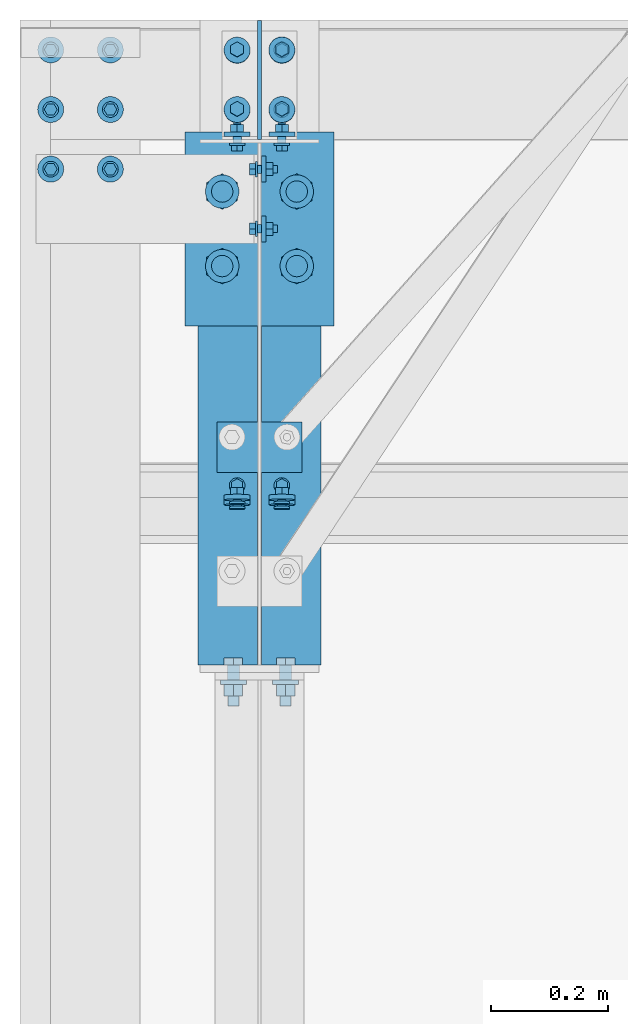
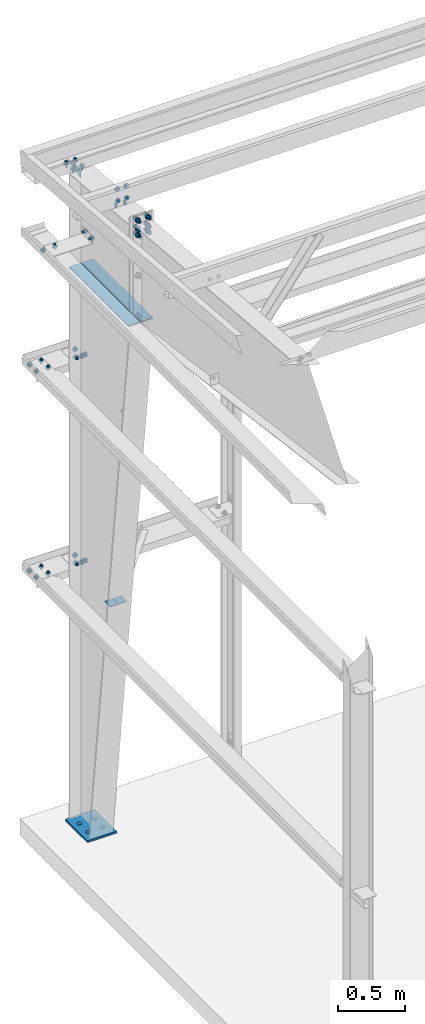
# One storey, part 86 of 185: 15 mechanical fasteners, 6 discrete accessories, 8 elements without a shape of their own.
"""IFC2X3 building model written with IfcOpenShell, lengths in millimetres."""

from ifc_helpers import new_model, si_unit, frame, origin_with_axes, origin_2d_with_axis, place, context, subcontext, project, spatial, polyline, rectangle, circle, outline, extrude, source, transform, mapped, material, type_object, element, aggregate, save


model = new_model("IFC2X3")

# Units and contexts
model_context = context("Model", 3, precision=1e-05, world=origin_with_axes())
body_context = subcontext(model_context, "Body", "Model", "MODEL_VIEW")
ifc_project = project(units=[si_unit("LENGTHUNIT", "METRE", prefix="MILLI"), si_unit("AREAUNIT", "SQUARE_METRE"), si_unit("VOLUMEUNIT", "CUBIC_METRE"), si_unit("MASSUNIT", "GRAM", prefix="KILO"), si_unit("TIMEUNIT", "SECOND"), si_unit("PLANEANGLEUNIT", "RADIAN"), si_unit("SOLIDANGLEUNIT", "STERADIAN"), si_unit("THERMODYNAMICTEMPERATUREUNIT", "DEGREE_CELSIUS"), si_unit("LUMINOUSINTENSITYUNIT", "LUMEN")], contexts=[model_context])

# Site, building, storey
site_placement = place(None, origin_with_axes())
site = spatial("IfcSite", under=ifc_project, at=site_placement, Name="Undefined", CompositionType="ELEMENT")
building_placement = place(site_placement, origin_with_axes())
building = spatial("IfcBuilding", under=site, at=building_placement, Name="Undefined", CompositionType="ELEMENT")
storey_placement = place(building_placement, origin_with_axes())
storey = spatial("IfcBuildingStorey", under=building, at=storey_placement, Name="Undefined", CompositionType="ELEMENT", Elevation=0.0)

# Assembly, mechanical fastener
assembly_1_placement = place(storey_placement, origin_with_axes())
assembly_1 = element("IfcElementAssembly", 1, at=assembly_1_placement, inside=storey, Name="Steel Assembly", AssemblyPlace="NOTDEFINED", PredefinedType="RIGID_FRAME")
ifc_material_1 = material(Name="Undefined")
discrete_accessory_type_1 = type_object("IfcDiscreteAccessoryType", Name="Bolt assembly")
shared_shape_1 = source(origin_with_axes(), body_context, "Body", "SweptSolid", [
    extrude(circle(Radius=7.14374971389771, at=origin_2d_with_axis()), frame((0.0, -1.4900000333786, 0.0), z_axis=(0.0, 1.0, 0.0), x_axis=(1.0, 0.0, 0.0)), (0.0, 0.0, 1.0), 3.2),
    extrude(circle(Radius=7.14374971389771, at=origin_2d_with_axis()), frame((0.0, -1.4900000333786, 0.0), z_axis=(0.0, 1.0, 0.0), x_axis=(1.0, 0.0, 0.0)), (0.0, 0.0, 1.0), 3.2),
    extrude(outline(polyline([(10.9985221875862, 0.0), (5.4992610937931, 9.52499961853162), (-5.4992610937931, 9.52499961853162), (-10.9985221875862, 0.0), (-5.4992610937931, -9.52499961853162), (5.4992610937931, -9.52499961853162), (10.9985221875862, 0.0)])), frame((0.0, -15.0837496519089, 0.0), z_axis=(0.0, 1.0, 0.0), x_axis=(1.0, 0.0, 0.0)), (0.0, 0.0, 1.0), 9.5),
    extrude(circle(Radius=6.34999990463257, at=origin_2d_with_axis()), frame((0.0, -5.5587500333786, 0.0), z_axis=(0.0, 1.0, 0.0), x_axis=(1.0, 0.0, 0.0)), (0.0, 0.0, 1.0), 38.1),
    extrude(circle(Radius=13.4937496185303, at=origin_2d_with_axis()), frame((0.0, -5.5587500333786, 0.0), z_axis=(0.0, 1.0, 0.0), x_axis=(1.0, 0.0, 0.0)), (0.0, 0.0, 1.0), 4.0),
    extrude(circle(Radius=22.2250003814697, at=origin_2d_with_axis()), frame((0.0, 1.5900000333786, 0.0), z_axis=(0.0, 1.0, 0.0), x_axis=(1.0, 0.0, 0.0)), (0.0, 0.0, 1.0), 7.9),
    extrude(outline(polyline([(12.8316099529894, 0.0), (6.4158049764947, 11.1125001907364), (-6.4158049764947, 11.1125001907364), (-12.8316099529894, 0.0), (-6.4158049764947, -11.1125001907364), (6.4158049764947, -11.1125001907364), (12.8316099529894, 0.0)])), frame((0.0, 9.5275000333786, 0.0), z_axis=(0.0, 1.0, 0.0), x_axis=(1.0, 0.0, 0.0)), (0.0, 0.0, 1.0), 12.3),
])
mechanical_fastener_1_placement = place(assembly_1_placement, frame((152.4, 31902.4, 4165.6), z_axis=(0.0, -1.0, 0.0), x_axis=(-1.0, 0.0, 0.0)))
mechanical_fastener_1 = element("IfcMechanicalFastener", 2, at=mechanical_fastener_1_placement, type_object=discrete_accessory_type_1, material=ifc_material_1, Name="Bolt assembly", NominalDiameter=12.6999998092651, NominalLength=38.0999984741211, context=body_context, shape_type="MappedRepresentation", body=[
    mapped(shared_shape_1, transform((0.0, 0.0, -50.7999992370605))),
    mapped(shared_shape_1, transform((101.599998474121, 0.0, -50.7999992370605))),
    mapped(shared_shape_1, transform((0.0, 0.0, 50.7999992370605))),
    mapped(shared_shape_1, transform((101.599998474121, 0.0, 50.7999992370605))),
])
aggregate(assembly_1, [mechanical_fastener_1])

assembly_2_placement = place(storey_placement, origin_with_axes())
assembly_2 = element("IfcElementAssembly", 3, at=assembly_2_placement, inside=storey, Name="Steel Assembly", AssemblyPlace="NOTDEFINED", PredefinedType="RIGID_FRAME")
shared_shape_2 = source(origin_with_axes(), body_context, "Body", "SweptSolid", [
    extrude(circle(Radius=7.14374971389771, at=origin_2d_with_axis()), frame((0.0, -1.4900000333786, 0.0), z_axis=(0.0, 1.0, 0.0), x_axis=(1.0, 0.0, 0.0)), (0.0, 0.0, 1.0), 3.2),
    extrude(circle(Radius=7.14374971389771, at=origin_2d_with_axis()), frame((0.0, -1.69000003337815, 0.0), z_axis=(0.0, 1.0, 0.0), x_axis=(1.0, 0.0, 0.0)), (0.0, 0.0, 1.0), 3.3),
    extrude(outline(polyline([(10.9985221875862, 0.0), (5.4992610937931, 9.52499961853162), (-5.4992610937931, 9.52499961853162), (-10.9985221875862, 0.0), (-5.4992610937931, -9.52499961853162), (5.4992610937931, -9.52499961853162), (10.9985221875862, 0.0)])), frame((0.0, -15.0837496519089, 0.0), z_axis=(0.0, 1.0, 0.0), x_axis=(1.0, 0.0, 0.0)), (0.0, 0.0, 1.0), 9.5),
    extrude(circle(Radius=6.34999990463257, at=origin_2d_with_axis()), frame((0.0, -5.5587500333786, 0.0), z_axis=(0.0, 1.0, 0.0), x_axis=(1.0, 0.0, 0.0)), (0.0, 0.0, 1.0), 38.1),
    extrude(circle(Radius=13.4937496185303, at=origin_2d_with_axis()), frame((0.0, -5.5587500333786, 0.0), z_axis=(0.0, 1.0, 0.0), x_axis=(1.0, 0.0, 0.0)), (0.0, 0.0, 1.0), 4.0),
    extrude(circle(Radius=22.2250003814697, at=origin_2d_with_axis()), frame((0.0, 1.5900000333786, 0.0), z_axis=(0.0, 1.0, 0.0), x_axis=(1.0, 0.0, 0.0)), (0.0, 0.0, 1.0), 7.9),
    extrude(outline(polyline([(12.8316099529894, 0.0), (6.4158049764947, 11.1125001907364), (-6.4158049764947, 11.1125001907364), (-12.8316099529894, 0.0), (-6.4158049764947, -11.1125001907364), (6.4158049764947, -11.1125001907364), (12.8316099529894, 0.0)])), frame((0.0, 9.5275000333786, 0.0), z_axis=(0.0, 1.0, 0.0), x_axis=(1.0, 0.0, 0.0)), (0.0, 0.0, 1.0), 12.3),
])
mechanical_fastener_2_placement = place(assembly_2_placement, frame((152.4, 31902.4, 2286.0), z_axis=(0.0, -1.0, 0.0), x_axis=(-1.0, 0.0, 0.0)))
mechanical_fastener_2 = element("IfcMechanicalFastener", 4, at=mechanical_fastener_2_placement, type_object=discrete_accessory_type_1, material=ifc_material_1, Name="Bolt assembly", NominalDiameter=12.6999998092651, NominalLength=38.0999984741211, context=body_context, shape_type="MappedRepresentation", body=[
    mapped(shared_shape_2, transform((0.0, 0.0, -50.7999992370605))),
    mapped(shared_shape_2, transform((101.599998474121, 0.0, -50.7999992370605))),
    mapped(shared_shape_2, transform((0.0, 0.0, 50.7999992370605))),
    mapped(shared_shape_2, transform((101.599998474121, 0.0, 50.7999992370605))),
])
aggregate(assembly_2, [mechanical_fastener_2])

# Assembly, discrete accessories
assembly_3_placement = place(storey_placement, origin_with_axes())
assembly_3 = element("IfcElementAssembly", 5, at=assembly_3_placement, inside=storey, Name="Steel Assembly", AssemblyPlace="NOTDEFINED", PredefinedType="RIGID_FRAME")
ifc_material_2 = material(Name="STEEL/55")
discrete_accessory_type_2 = type_object("IfcDiscreteAccessoryType", Name="Stiff")
discrete_accessory_1_placement = place(assembly_3_placement, frame((352.424999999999, 31794.45, 5055.93231443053), z_axis=(1.0, 0.0, 0.0), x_axis=(0.0, -1.0, 0.0)))
discrete_accessory_1 = element("IfcDiscreteAccessory", 6, at=discrete_accessory_1_placement, type_object=discrete_accessory_type_2, material=ifc_material_2, Name="Stiff", ObjectType="FL3/8\"X4\"", context=body_context, shape_type="SweptSolid", body=[
    extrude(rectangle(XDim=9.525, YDim=101.6, at=origin_2d_with_axis()), frame((889.0, 0.0, 0.0), z_axis=(-1.0, 0.0, 0.0), x_axis=(0.0, -1.0, 0.0)), (0.0, 0.0, 1.0), 889.0),
])
discrete_accessory_2_placement = place(assembly_3_placement, frame((460.375, 31794.45, 5055.93231443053), z_axis=(1.0, 0.0, 0.0), x_axis=(0.0, -1.0, 0.0)))
discrete_accessory_2 = element("IfcDiscreteAccessory", 7, at=discrete_accessory_2_placement, type_object=discrete_accessory_type_2, material=ifc_material_2, Name="Stiff", ObjectType="FL3/8\"X4\"", context=body_context, shape_type="SweptSolid", body=[
    extrude(rectangle(XDim=9.525, YDim=101.6, at=origin_2d_with_axis()), frame((889.0, 0.0, 0.0), z_axis=(-1.0, 0.0, 0.0), x_axis=(0.0, -1.0, 0.0)), (0.0, 0.0, 1.0), 889.0),
])

# Assembly, mechanical fasteners
assembly_4_placement = place(storey_placement, origin_with_axes())
assembly_4 = element("IfcElementAssembly", 8, at=assembly_4_placement, inside=storey, Name="Steel Assembly", AssemblyPlace="NOTDEFINED", PredefinedType="RIGID_FRAME")
shared_shape_3 = source(origin_with_axes(), body_context, "Body", "SweptSolid", [
    extrude(circle(Radius=7.14374971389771, at=origin_2d_with_axis()), frame((0.0, -1.59000001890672, 0.0), z_axis=(0.0, 1.0, 0.0), x_axis=(1.0, 0.0, 0.0)), (0.0, 0.0, 1.0), 3.3),
    extrude(circle(Radius=13.4937496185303, at=origin_2d_with_axis()), frame((0.0, -5.5587500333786, 0.0), z_axis=(0.0, 1.0, 0.0), x_axis=(1.0, 0.0, 0.0)), (0.0, 0.0, 1.0), 4.0),
    extrude(circle(Radius=22.2250003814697, at=origin_2d_with_axis()), frame((0.0, 1.5900000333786, 0.0), z_axis=(0.0, 1.0, 0.0), x_axis=(1.0, 0.0, 0.0)), (0.0, 0.0, 1.0), 7.9),
    extrude(outline(polyline([(12.8316099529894, 0.0), (6.4158049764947, 11.1125001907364), (-6.4158049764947, 11.1125001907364), (-12.8316099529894, 0.0), (-6.4158049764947, -11.1125001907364), (6.4158049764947, -11.1125001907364), (12.8316099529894, 0.0)])), frame((0.0, 9.5275000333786, 0.0), z_axis=(0.0, 1.0, 0.0), x_axis=(1.0, 0.0, 0.0)), (0.0, 0.0, 1.0), 12.3),
])
mechanical_fastener_3_placement = place(assembly_4_placement, frame((444.5, 31185.1382206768, 6113.2623980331), z_axis=(1.0, 0.0, 0.0), x_axis=(0.0, -0.0830454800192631, -0.996545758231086)))
mechanical_fastener_3 = element("IfcMechanicalFastener", 9, at=mechanical_fastener_3_placement, type_object=discrete_accessory_type_1, material=ifc_material_1, Name="Bolt assembly", NominalDiameter=12.6999998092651, NominalLength=38.0999984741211, context=body_context, shape_type="MappedRepresentation", body=[
    mapped(shared_shape_3, transform((0.0, 0.0, 0.0))),
    mapped(shared_shape_3, transform((101.599998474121, 0.0, 0.0))),
])
mechanical_fastener_4_placement = place(assembly_4_placement, frame((368.3, 31185.1382206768, 6113.2623980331), z_axis=(1.0, 0.0, 0.0), x_axis=(0.0, -0.0830454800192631, -0.996545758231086)))
mechanical_fastener_4 = element("IfcMechanicalFastener", 10, at=mechanical_fastener_4_placement, type_object=discrete_accessory_type_1, material=ifc_material_1, Name="Bolt assembly", NominalDiameter=12.6999998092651, NominalLength=38.0999984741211, context=body_context, shape_type="MappedRepresentation", body=[
    mapped(shared_shape_3, transform((0.0, 0.0, 0.0))),
    mapped(shared_shape_3, transform((101.599998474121, 0.0, 0.0))),
])

# Discrete accessory
discrete_accessory_type_3 = type_object("IfcDiscreteAccessoryType", Name="Base Plate")
discrete_accessory_3_placement = place(assembly_3_placement, frame((406.4, 31813.4999998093, 7.93749999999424), z_axis=(-1.0, 0.0, 0.0), x_axis=(0.0, -1.0, 0.0)))
discrete_accessory_3 = element("IfcDiscreteAccessory", 11, at=discrete_accessory_3_placement, type_object=discrete_accessory_type_3, material=ifc_material_2, Name="Base Plate", ObjectType="FL5/8\"X10\"", context=body_context, shape_type="SweptSolid", body=[
    extrude(rectangle(XDim=15.875, YDim=254.0, at=origin_2d_with_axis()), frame((330.256867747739, 0.0, 0.0), z_axis=(-1.0, 0.0, 0.0), x_axis=(0.0, -1.0, 0.0)), (0.0, 0.0, 1.0), 330.3),
])

discrete_accessory_type_4 = type_object("IfcDiscreteAccessoryType", Name="FLANGE BRACE FLIP")
discrete_accessory_4_placement = place(assembly_3_placement, frame((404.01875, 31276.0950559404, 2284.29185), z_axis=(0.0, -1.0, 0.0), x_axis=(-1.0, 0.0, 0.0)))
discrete_accessory_4 = element("IfcDiscreteAccessory", 12, at=discrete_accessory_4_placement, type_object=discrete_accessory_type_4, material=ifc_material_2, Name="FLANGE BRACE FLIP", ObjectType="PL1/8\"X2 3/4\"", context=body_context, shape_type="SweptSolid", body=[
    extrude(rectangle(XDim=3.4163, YDim=85.725, at=origin_2d_with_axis()), frame((69.8499999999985, 0.0, 0.0), z_axis=(-1.0, 0.0, 0.0), x_axis=(0.0, -1.0, 0.0)), (0.0, 0.0, 1.0), 69.8),
])

discrete_accessory_5_placement = place(assembly_3_placement, frame((408.78125, 31276.0950559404, 2284.29185), z_axis=(0.0, -1.0, 0.0), x_axis=(1.0, 0.0, 0.0)))
discrete_accessory_5 = element("IfcDiscreteAccessory", 13, at=discrete_accessory_5_placement, type_object=discrete_accessory_type_4, material=ifc_material_2, Name="FLANGE BRACE FLIP", ObjectType="PL1/8\"X2 3/4\"", context=body_context, shape_type="SweptSolid", body=[
    extrude(rectangle(XDim=3.4163, YDim=85.725, at=origin_2d_with_axis()), frame((69.8499999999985, 0.0, 0.0), z_axis=(-1.0, 0.0, 0.0), x_axis=(0.0, -1.0, 0.0)), (0.0, 0.0, 1.0), 69.8),
])

# Assembly, mechanical fastener
assembly_5_placement = place(storey_placement, origin_with_axes())
assembly_5 = element("IfcElementAssembly", 14, at=assembly_5_placement, inside=storey, Name="Steel Assembly", AssemblyPlace="NOTDEFINED", PredefinedType="RIGID_FRAME")
shared_shape_4 = source(origin_with_axes(), body_context, "Body", "SweptSolid", [
    extrude(circle(Radius=7.14374971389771, at=origin_2d_with_axis()), frame((0.0, -1.69000003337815, 0.0), z_axis=(0.0, 1.0, 0.0), x_axis=(1.0, 0.0, 0.0)), (0.0, 0.0, 1.0), 3.3),
    extrude(circle(Radius=7.14374971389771, at=origin_2d_with_axis()), frame((0.0, -4.66250000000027, 0.0), z_axis=(0.0, 1.0, 0.0), x_axis=(1.0, 0.0, 0.0)), (0.0, 0.0, 1.0), 4.8),
    extrude(outline(polyline([(10.9985221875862, 0.0), (5.4992610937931, 9.52499961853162), (-5.4992610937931, 9.52499961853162), (-10.9985221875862, 0.0), (-5.4992610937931, -9.52499961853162), (5.4992610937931, -9.52499961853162), (10.9985221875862, 0.0)])), frame((0.0, -18.2562496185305, 0.0), z_axis=(0.0, 1.0, 0.0), x_axis=(1.0, 0.0, 0.0)), (0.0, 0.0, 1.0), 9.5),
    extrude(circle(Radius=6.34999990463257, at=origin_2d_with_axis()), frame((0.0, -8.73125000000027, 0.0), z_axis=(0.0, 1.0, 0.0), x_axis=(1.0, 0.0, 0.0)), (0.0, 0.0, 1.0), 38.1),
    extrude(circle(Radius=13.4937496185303, at=origin_2d_with_axis()), frame((0.0, -8.73125000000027, 0.0), z_axis=(0.0, 1.0, 0.0), x_axis=(1.0, 0.0, 0.0)), (0.0, 0.0, 1.0), 4.0),
    extrude(circle(Radius=22.2250003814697, at=origin_2d_with_axis()), frame((0.0, 1.5900000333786, 0.0), z_axis=(0.0, 1.0, 0.0), x_axis=(1.0, 0.0, 0.0)), (0.0, 0.0, 1.0), 7.9),
    extrude(outline(polyline([(12.8316099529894, 0.0), (6.4158049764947, 11.1125001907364), (-6.4158049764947, 11.1125001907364), (-12.8316099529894, 0.0), (-6.4158049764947, -11.1125001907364), (6.4158049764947, -11.1125001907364), (12.8316099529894, 0.0)])), frame((0.0, 9.5275000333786, 0.0), z_axis=(0.0, 1.0, 0.0), x_axis=(1.0, 0.0, 0.0)), (0.0, 0.0, 1.0), 12.3),
])
mechanical_fastener_5_placement = place(assembly_5_placement, frame((444.5, 31851.6, 2286.0), z_axis=(-1.0, 0.0, 0.0), x_axis=(0.0, 1.0, 0.0)))
mechanical_fastener_5 = element("IfcMechanicalFastener", 15, at=mechanical_fastener_5_placement, type_object=discrete_accessory_type_1, material=ifc_material_1, Name="Bolt assembly", NominalDiameter=12.6999998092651, NominalLength=38.0999984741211, context=body_context, shape_type="MappedRepresentation", body=[
    mapped(shared_shape_4, transform((0.0, 0.0, 0.0))),
    mapped(shared_shape_4, transform((101.599998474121, 0.0, 0.0))),
])

assembly_6_placement = place(storey_placement, origin_with_axes())
assembly_6 = element("IfcElementAssembly", 16, at=assembly_6_placement, inside=storey, Name="Steel Assembly", AssemblyPlace="NOTDEFINED", PredefinedType="RIGID_FRAME")
mechanical_fastener_6_placement = place(assembly_6_placement, frame((444.5, 31851.6, 4165.6), z_axis=(-1.0, 0.0, 0.0), x_axis=(0.0, 1.0, 0.0)))
mechanical_fastener_6 = element("IfcMechanicalFastener", 17, at=mechanical_fastener_6_placement, type_object=discrete_accessory_type_1, material=ifc_material_1, Name="Bolt assembly", NominalDiameter=12.6999998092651, NominalLength=38.0999984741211, context=body_context, shape_type="MappedRepresentation", body=[
    mapped(shared_shape_4, transform((0.0, 0.0, 0.0))),
    mapped(shared_shape_4, transform((101.599998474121, 0.0, 0.0))),
])

# Mechanical fastener
shared_shape_5 = source(origin_with_axes(), body_context, "Body", "SweptSolid", [
    extrude(circle(Radius=7.14374971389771, at=origin_2d_with_axis()), frame((0.0, -6.24999999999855, 0.0), z_axis=(0.0, 1.0, 0.0), x_axis=(1.0, 0.0, 0.0)), (0.0, 0.0, 1.0), 6.3),
    extrude(circle(Radius=7.14374971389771, at=origin_2d_with_axis()), frame((0.0, -0.1, 0.0), z_axis=(0.0, 1.0, 0.0), x_axis=(1.0, 0.0, 0.0)), (0.0, 0.0, 1.0), 4.9),
    extrude(outline(polyline([(10.9985221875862, 0.0), (5.4992610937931, 9.52499961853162), (-5.4992610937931, 9.52499961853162), (-10.9985221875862, 0.0), (-5.4992610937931, -9.52499961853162), (5.4992610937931, -9.52499961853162), (10.9985221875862, 0.0)])), frame((0.0, -19.8437496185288, 0.0), z_axis=(0.0, 1.0, 0.0), x_axis=(1.0, 0.0, 0.0)), (0.0, 0.0, 1.0), 9.5),
    extrude(circle(Radius=6.34999990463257, at=origin_2d_with_axis()), frame((0.0, -10.3187499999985, 0.0), z_axis=(0.0, 1.0, 0.0), x_axis=(1.0, 0.0, 0.0)), (0.0, 0.0, 1.0), 38.1),
    extrude(circle(Radius=13.4937496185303, at=origin_2d_with_axis()), frame((0.0, -10.3187499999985, 0.0), z_axis=(0.0, 1.0, 0.0), x_axis=(1.0, 0.0, 0.0)), (0.0, 0.0, 1.0), 4.0),
    extrude(circle(Radius=22.2250003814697, at=origin_2d_with_axis()), frame((0.0, 4.76249999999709, 0.0), z_axis=(0.0, 1.0, 0.0), x_axis=(1.0, 0.0, 0.0)), (0.0, 0.0, 1.0), 7.9),
    extrude(outline(polyline([(12.8316099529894, 0.0), (6.4158049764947, 11.1125001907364), (-6.4158049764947, 11.1125001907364), (-12.8316099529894, 0.0), (-6.4158049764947, -11.1125001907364), (6.4158049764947, -11.1125001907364), (12.8316099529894, 0.0)])), frame((0.0, 12.6999999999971, 0.0), z_axis=(0.0, 1.0, 0.0), x_axis=(1.0, 0.0, 0.0)), (0.0, 0.0, 1.0), 12.3),
])
mechanical_fastener_7_placement = place(assembly_5_placement, frame((406.4, 31800.8, 2324.1), z_axis=(-1.0, 0.0, 0.0), x_axis=(0.0, 0.0, 1.0)))
mechanical_fastener_7 = element("IfcMechanicalFastener", 18, at=mechanical_fastener_7_placement, type_object=discrete_accessory_type_1, material=ifc_material_1, Name="Bolt assembly", NominalDiameter=12.6999998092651, NominalLength=38.0999984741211, context=body_context, shape_type="MappedRepresentation", body=[
    mapped(shared_shape_5, transform((0.0, 0.0, -38.0999984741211))),
    mapped(shared_shape_5, transform((0.0, 0.0, 38.0999984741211))),
])

aggregate(assembly_5, [mechanical_fastener_5, mechanical_fastener_7])

mechanical_fastener_8_placement = place(assembly_6_placement, frame((406.4, 31800.8, 4203.7), z_axis=(-1.0, 0.0, 0.0), x_axis=(0.0, 0.0, 1.0)))
mechanical_fastener_8 = element("IfcMechanicalFastener", 19, at=mechanical_fastener_8_placement, type_object=discrete_accessory_type_1, material=ifc_material_1, Name="Bolt assembly", NominalDiameter=12.6999998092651, NominalLength=38.0999984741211, context=body_context, shape_type="MappedRepresentation", body=[
    mapped(shared_shape_5, transform((0.0, 0.0, -38.0999984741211))),
    mapped(shared_shape_5, transform((0.0, 0.0, 38.0999984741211))),
])

aggregate(assembly_6, [mechanical_fastener_6, mechanical_fastener_8])

# Discrete accessory
discrete_accessory_type_5 = type_object("IfcDiscreteAccessoryType", Name="Gusset")
discrete_accessory_6_placement = place(assembly_3_placement, frame((406.4, 31800.8, 5902.65698800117), z_axis=(-1.0, 0.0, 0.0), x_axis=(0.0, 0.996545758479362, -0.0830454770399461)))
discrete_accessory_6 = element("IfcDiscreteAccessory", 20, at=discrete_accessory_6_placement, type_object=discrete_accessory_type_5, material=ifc_material_2, Name="Gusset", ObjectType="1/4\"X2 7/8\"", context=body_context, shape_type="SweptSolid", body=[
    extrude(outline(polyline([(0.0, 0.0), (203.502426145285, -7.36690708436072e-10), (6.32806539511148, 75.9367904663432), (0.0, 0.0)])), frame((0.0, -9.09494701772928e-13, -3.2), z_axis=(0.0, 0.0, 1.0), x_axis=(1.0, 0.0, 0.0)), (0.0, 0.0, 1.0), 6.4),
])

# Mechanical fastener
shared_shape_6 = source(origin_with_axes(), body_context, "Body", "SweptSolid", [
    extrude(circle(Radius=10.3187494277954, at=origin_2d_with_axis()), frame((0.0, -0.1, 0.0), z_axis=(0.0, 1.0, 0.0), x_axis=(1.0, 0.0, 0.0)), (0.0, 0.0, 1.0), 12.8),
    extrude(circle(Radius=10.3187494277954, at=origin_2d_with_axis()), frame((0.0, -12.5999999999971, 0.0), z_axis=(0.0, 1.0, 0.0), x_axis=(1.0, 0.0, 0.0)), (0.0, 0.0, 1.0), 12.7),
    extrude(outline(polyline([(18.3308710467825, 0.0), (9.16543552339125, 15.8750000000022), (-9.16543552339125, 15.8750000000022), (-18.3308710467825, 0.0), (-9.16543552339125, -15.8750000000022), (9.16543552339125, -15.8750000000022), (18.3308710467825, 0.0)])), frame((0.0, -24.6062499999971, 0.0), z_axis=(0.0, 1.0, 0.0), x_axis=(1.0, 0.0, 0.0)), (0.0, 0.0, 1.0), 11.9),
    extrude(circle(Radius=9.52499961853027, at=origin_2d_with_axis()), frame((0.0, -12.6999999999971, 0.0), z_axis=(0.0, 1.0, 0.0), x_axis=(1.0, 0.0, 0.0)), (0.0, 0.0, 1.0), 69.8),
    extrude(circle(Radius=22.2250003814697, at=origin_2d_with_axis()), frame((0.0, 12.6999999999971, 0.0), z_axis=(0.0, 1.0, 0.0), x_axis=(1.0, 0.0, 0.0)), (0.0, 0.0, 1.0), 7.9),
    extrude(outline(polyline([(18.3308710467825, 0.0), (9.16543552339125, 15.8750000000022), (-9.16543552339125, 15.8750000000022), (-18.3308710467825, 0.0), (-9.16543552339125, -15.8750000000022), (9.16543552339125, -15.8750000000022), (18.3308710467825, 0.0)])), frame((0.0, 20.6374999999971, 0.0), z_axis=(0.0, 1.0, 0.0), x_axis=(1.0, 0.0, 0.0)), (0.0, 0.0, 1.0), 19.0),
])
mechanical_fastener_9_placement = place(assembly_3_placement, frame((406.4, 30892.75, 6021.13231192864), z_axis=(-1.0, 0.0, 0.0), x_axis=(0.0, 0.0, -1.0)))
mechanical_fastener_9 = element("IfcMechanicalFastener", 21, at=mechanical_fastener_9_placement, type_object=discrete_accessory_type_1, material=ifc_material_1, Name="Bolt assembly", NominalDiameter=19.0499992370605, NominalLength=69.8499984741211, context=body_context, shape_type="MappedRepresentation", body=[
    mapped(shared_shape_6, transform((0.0, 0.0, -44.4500007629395))),
    mapped(shared_shape_6, transform((76.1999969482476, 0.0, -44.4500007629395))),
    mapped(shared_shape_6, transform((133.350006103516, 0.0, -44.4500007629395))),
    mapped(shared_shape_6, transform((0.0, 0.0, 44.4500007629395))),
    mapped(shared_shape_6, transform((76.1999969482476, 0.0, 44.4500007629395))),
    mapped(shared_shape_6, transform((133.350006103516, 0.0, 44.4500007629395))),
])

shared_shape_7 = source(origin_with_axes(), body_context, "Body", "SweptSolid", [
    extrude(circle(Radius=7.14499998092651, at=origin_2d_with_axis()), frame((0.0, 0.0, 0.0), z_axis=(0.0, 1.0, 0.0), x_axis=(1.0, 0.0, 0.0)), (0.0, 0.0, 1.0), 6.5),
    extrude(outline(polyline([(10.9985221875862, 0.0), (5.4992610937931, 9.52499961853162), (-5.4992610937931, 9.52499961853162), (-10.9985221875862, 0.0), (-5.4992610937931, -9.52499961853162), (5.4992610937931, -9.52499961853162), (10.9985221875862, 0.0)])), frame((0.0, -13.4937496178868, 0.0), z_axis=(0.0, 1.0, 0.0), x_axis=(1.0, 0.0, 0.0)), (0.0, 0.0, 1.0), 9.5),
    extrude(circle(Radius=6.34999990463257, at=origin_2d_with_axis()), frame((0.0, -3.96874999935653, 0.0), z_axis=(0.0, 1.0, 0.0), x_axis=(1.0, 0.0, 0.0)), (0.0, 0.0, 1.0), 38.1),
    extrude(circle(Radius=13.4937496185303, at=origin_2d_with_axis()), frame((0.0, -3.96874999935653, 0.0), z_axis=(0.0, 1.0, 0.0), x_axis=(1.0, 0.0, 0.0)), (0.0, 0.0, 1.0), 4.0),
    extrude(circle(Radius=22.2250003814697, at=origin_2d_with_axis()), frame((0.0, 6.35000000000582, 0.0), z_axis=(0.0, 1.0, 0.0), x_axis=(1.0, 0.0, 0.0)), (0.0, 0.0, 1.0), 7.9),
    extrude(outline(polyline([(12.8316099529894, 0.0), (6.4158049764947, 11.1125001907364), (-6.4158049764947, 11.1125001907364), (-12.8316099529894, 0.0), (-6.4158049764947, -11.1125001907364), (6.4158049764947, -11.1125001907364), (12.8316099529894, 0.0)])), frame((0.0, 14.2875000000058, 0.0), z_axis=(0.0, 1.0, 0.0), x_axis=(1.0, 0.0, 0.0)), (0.0, 0.0, 1.0), 12.3),
])
mechanical_fastener_10_placement = place(assembly_3_placement, frame((403.225, 31699.2, 5372.09499740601), z_axis=(0.0, 1.0, 0.0), x_axis=(0.0, 0.0, 1.0)))
mechanical_fastener_10 = element("IfcMechanicalFastener", 22, at=mechanical_fastener_10_placement, type_object=discrete_accessory_type_1, material=ifc_material_1, Name="Bolt assembly", NominalDiameter=12.6999998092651, NominalLength=38.0999984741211, context=body_context, shape_type="MappedRepresentation", body=[
    mapped(shared_shape_7, transform((0.0, 0.0, -50.7999992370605))),
    mapped(shared_shape_7, transform((0.0, 0.0, 50.7999992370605))),
])

# Assembly, mechanical fastener
assembly_7_placement = place(storey_placement, origin_with_axes())
assembly_7 = element("IfcElementAssembly", 23, at=assembly_7_placement, inside=storey, Name="Steel Assembly", AssemblyPlace="NOTDEFINED", PredefinedType="RIGID_FRAME")
shared_shape_8 = source(origin_with_axes(), body_context, "Body", "SweptSolid", [
    extrude(circle(Radius=7.14374971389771, at=origin_2d_with_axis()), frame((0.0, -1.59500110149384, 0.0), z_axis=(0.0, 1.0, 0.0), x_axis=(1.0, 0.0, 0.0)), (0.0, 0.0, 1.0), 3.3),
    extrude(outline(polyline([(10.9985221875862, 0.0), (5.4992610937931, 9.52499961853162), (-5.4992610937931, 9.52499961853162), (-10.9985221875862, 0.0), (-5.4992610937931, -9.52499961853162), (5.4992610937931, -9.52499961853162), (10.9985221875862, 0.0)])), frame((0.0, -15.0887507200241, 0.0), z_axis=(0.0, 1.0, 0.0), x_axis=(1.0, 0.0, 0.0)), (0.0, 0.0, 1.0), 9.5),
    extrude(circle(Radius=6.34999990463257, at=origin_2d_with_axis()), frame((0.0, -5.56375110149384, 0.0), z_axis=(0.0, 1.0, 0.0), x_axis=(1.0, 0.0, 0.0)), (0.0, 0.0, 1.0), 38.1),
    extrude(circle(Radius=13.4937496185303, at=origin_2d_with_axis()), frame((0.0, -5.56375110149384, 0.0), z_axis=(0.0, 1.0, 0.0), x_axis=(1.0, 0.0, 0.0)), (0.0, 0.0, 1.0), 4.0),
    extrude(circle(Radius=22.2250003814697, at=origin_2d_with_axis()), frame((0.0, 1.58499896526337, 0.0), z_axis=(0.0, 1.0, 0.0), x_axis=(1.0, 0.0, 0.0)), (0.0, 0.0, 1.0), 7.9),
    extrude(outline(polyline([(12.8316099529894, 0.0), (6.4158049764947, 11.1125001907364), (-6.4158049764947, 11.1125001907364), (-12.8316099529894, 0.0), (-6.4158049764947, -11.1125001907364), (6.4158049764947, -11.1125001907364), (12.8316099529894, 0.0)])), frame((0.0, 9.52249896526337, 0.0), z_axis=(0.0, 1.0, 0.0), x_axis=(1.0, 0.0, 0.0)), (0.0, 0.0, 1.0), 12.3),
])
mechanical_fastener_11_placement = place(assembly_7_placement, frame((152.400000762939, 31750.0, 5333.99499893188), z_axis=(0.0, -1.0, 0.0), x_axis=(-1.0, 0.0, 0.0)))
mechanical_fastener_11 = element("IfcMechanicalFastener", 24, at=mechanical_fastener_11_placement, type_object=discrete_accessory_type_1, material=ifc_material_1, Name="Bolt assembly", NominalDiameter=12.6999998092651, NominalLength=38.0999984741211, context=body_context, shape_type="MappedRepresentation", body=[
    mapped(shared_shape_8, transform((0.0, 0.0, 0.0))),
    mapped(shared_shape_8, transform((101.599998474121, 0.0, 0.0))),
])
aggregate(assembly_7, [mechanical_fastener_11])

# Mechanical fastener
shared_shape_9 = source(origin_with_axes(), body_context, "Body", "SweptSolid", [
    extrude(circle(Radius=7.14374971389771, at=origin_2d_with_axis()), frame((0.0, -0.1, 0.0), z_axis=(0.0, 1.0, 0.0), x_axis=(1.0, 0.0, 0.0)), (0.0, 0.0, 1.0), 6.5),
    extrude(circle(Radius=7.14374971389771, at=origin_2d_with_axis()), frame((0.0, -3.08000006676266, 0.0), z_axis=(0.0, 1.0, 0.0), x_axis=(1.0, 0.0, 0.0)), (0.0, 0.0, 1.0), 3.2),
    extrude(outline(polyline([(10.9985221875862, 0.0), (5.4992610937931, 9.52499961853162), (-5.4992610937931, 9.52499961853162), (-10.9985221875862, 0.0), (-5.4992610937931, -9.52499961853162), (5.4992610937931, -9.52499961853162), (10.9985221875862, 0.0)])), frame((0.0, -16.6737496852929, 0.0), z_axis=(0.0, 1.0, 0.0), x_axis=(1.0, 0.0, 0.0)), (0.0, 0.0, 1.0), 9.5),
    extrude(circle(Radius=6.34999990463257, at=origin_2d_with_axis()), frame((0.0, -7.14875006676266, 0.0), z_axis=(0.0, 1.0, 0.0), x_axis=(1.0, 0.0, 0.0)), (0.0, 0.0, 1.0), 38.1),
    extrude(circle(Radius=13.4937496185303, at=origin_2d_with_axis()), frame((0.0, -7.14875006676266, 0.0), z_axis=(0.0, 1.0, 0.0), x_axis=(1.0, 0.0, 0.0)), (0.0, 0.0, 1.0), 4.0),
    extrude(outline(polyline([(12.8316099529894, 0.0), (6.4158049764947, 11.1125001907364), (-6.4158049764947, 11.1125001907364), (-12.8316099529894, 0.0), (-6.4158049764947, -11.1125001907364), (6.4158049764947, -11.1125001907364), (12.8316099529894, 0.0)])), frame((0.0, 6.35000000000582, 0.0), z_axis=(0.0, 1.0, 0.0), x_axis=(1.0, 0.0, 0.0)), (0.0, 0.0, 1.0), 12.3),
])
mechanical_fastener_12_placement = place(assembly_4_placement, frame((406.4, 31210.4504829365, 5958.22479169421), z_axis=(-1.0, 0.0, 0.0), x_axis=(0.0, 0.996545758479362, -0.0830454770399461)))
mechanical_fastener_12 = element("IfcMechanicalFastener", 25, at=mechanical_fastener_12_placement, type_object=discrete_accessory_type_1, material=ifc_material_1, Name="Bolt assembly", NominalDiameter=12.6999998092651, NominalLength=38.0999984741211, context=body_context, shape_type="MappedRepresentation", body=[
    mapped(shared_shape_9, transform((0.0, 0.0, -38.0999984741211))),
    mapped(shared_shape_9, transform((0.0, 0.0, 38.0999984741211))),
])

aggregate(assembly_4, [mechanical_fastener_12, mechanical_fastener_3, mechanical_fastener_4])

shared_shape_10 = source(origin_with_axes(), body_context, "Body", "SweptSolid", [
    extrude(circle(Radius=7.14499998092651, at=origin_2d_with_axis()), frame((0.0, -1.48750355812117, 0.0), z_axis=(0.0, 1.0, 0.0), x_axis=(1.0, 0.0, 0.0)), (0.0, 0.0, 1.0), 1.6),
    extrude(circle(Radius=7.14499998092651, at=origin_2d_with_axis()), frame((0.0, -0.1, 0.0), z_axis=(0.0, 1.0, 0.0), x_axis=(1.0, 0.0, 0.0)), (0.0, 0.0, 1.0), 6.5),
    extrude(outline(polyline([(12.8316099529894, 0.0), (6.4158049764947, 11.1125001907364), (-6.4158049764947, 11.1125001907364), (-12.8316099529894, 0.0), (-6.4158049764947, -11.1125001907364), (6.4158049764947, -11.1125001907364), (12.8316099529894, 0.0)])), frame((0.0, -9.52499961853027, 0.0), z_axis=(0.0, 1.0, 0.0), x_axis=(1.0, 0.0, 0.0)), (0.0, 0.0, 1.0), 7.9),
    extrude(circle(Radius=6.34999990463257, at=origin_2d_with_axis()), frame((0.0, -1.58749999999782, 0.0), z_axis=(0.0, 1.0, 0.0), x_axis=(1.0, 0.0, 0.0)), (0.0, 0.0, 1.0), 50.8),
    extrude(circle(Radius=22.2250003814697, at=origin_2d_with_axis()), frame((0.0, 6.35000000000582, 0.0), z_axis=(0.0, 1.0, 0.0), x_axis=(1.0, 0.0, 0.0)), (0.0, 0.0, 1.0), 7.9),
    extrude(outline(polyline([(12.8316099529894, 0.0), (6.4158049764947, 11.1125001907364), (-6.4158049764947, 11.1125001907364), (-12.8316099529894, 0.0), (-6.4158049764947, -11.1125001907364), (6.4158049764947, -11.1125001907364), (12.8316099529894, 0.0)])), frame((0.0, 14.2875000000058, 0.0), z_axis=(0.0, 1.0, 0.0), x_axis=(1.0, 0.0, 0.0)), (0.0, 0.0, 1.0), 12.3),
])
mechanical_fastener_13_placement = place(assembly_3_placement, frame((444.5, 31953.3754762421, 5896.31437545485), z_axis=(1.0, 0.0, 0.0), x_axis=(0.0, -0.996545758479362, 0.0830454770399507)))
mechanical_fastener_13 = element("IfcMechanicalFastener", 26, at=mechanical_fastener_13_placement, type_object=discrete_accessory_type_1, material=ifc_material_1, Name="Bolt assembly", NominalDiameter=12.6999998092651, NominalLength=50.7999992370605, context=body_context, shape_type="MappedRepresentation", body=[
    mapped(shared_shape_10, transform((0.0, 0.0, 0.0))),
    mapped(shared_shape_10, transform((101.599998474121, 0.0, 0.0))),
])

# Assembly, mechanical fastener
assembly_8_placement = place(storey_placement, origin_with_axes())
assembly_8 = element("IfcElementAssembly", 27, at=assembly_8_placement, inside=storey, Name="Steel Assembly", AssemblyPlace="NOTDEFINED", PredefinedType="RIGID_FRAME")
shared_shape_11 = source(origin_with_axes(), body_context, "Body", "SweptSolid", [
    extrude(circle(Radius=7.14499998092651, at=origin_2d_with_axis()), frame((0.0, -0.1, 0.0), z_axis=(0.0, 1.0, 0.0), x_axis=(1.0, 0.0, 0.0)), (0.0, 0.0, 1.0), 6.5),
    extrude(circle(Radius=7.14499998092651, at=origin_2d_with_axis()), frame((0.0, -1.48750355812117, 0.0), z_axis=(0.0, 1.0, 0.0), x_axis=(1.0, 0.0, 0.0)), (0.0, 0.0, 1.0), 1.6),
    extrude(outline(polyline([(12.8316099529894, 0.0), (6.4158049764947, 11.1125001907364), (-6.4158049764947, 11.1125001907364), (-12.8316099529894, 0.0), (-6.4158049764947, -11.1125001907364), (6.4158049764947, -11.1125001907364), (12.8316099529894, 0.0)])), frame((0.0, -9.52499961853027, 0.0), z_axis=(0.0, 1.0, 0.0), x_axis=(1.0, 0.0, 0.0)), (0.0, 0.0, 1.0), 7.9),
    extrude(circle(Radius=6.34999990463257, at=origin_2d_with_axis()), frame((0.0, -1.58749999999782, 0.0), z_axis=(0.0, 1.0, 0.0), x_axis=(1.0, 0.0, 0.0)), (0.0, 0.0, 1.0), 50.8),
    extrude(circle(Radius=22.2250003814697, at=origin_2d_with_axis()), frame((0.0, 6.35000000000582, 0.0), z_axis=(0.0, 1.0, 0.0), x_axis=(1.0, 0.0, 0.0)), (0.0, 0.0, 1.0), 7.9),
    extrude(outline(polyline([(12.8316099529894, 0.0), (6.4158049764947, 11.1125001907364), (-6.4158049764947, 11.1125001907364), (-12.8316099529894, 0.0), (-6.4158049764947, -11.1125001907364), (6.4158049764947, -11.1125001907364), (12.8316099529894, 0.0)])), frame((0.0, 14.2875000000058, 0.0), z_axis=(0.0, 1.0, 0.0), x_axis=(1.0, 0.0, 0.0)), (0.0, 0.0, 1.0), 12.3),
])
mechanical_fastener_14_placement = place(assembly_8_placement, frame((368.3, 31953.3754762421, 5896.31437545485), z_axis=(1.0, 0.0, 0.0), x_axis=(0.0, -0.996545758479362, 0.0830454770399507)))
mechanical_fastener_14 = element("IfcMechanicalFastener", 28, at=mechanical_fastener_14_placement, type_object=discrete_accessory_type_1, material=ifc_material_1, Name="Bolt assembly", NominalDiameter=12.6999998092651, NominalLength=50.7999992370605, context=body_context, shape_type="MappedRepresentation", body=[
    mapped(shared_shape_11, transform((0.0, 0.0, 0.0))),
    mapped(shared_shape_11, transform((101.599998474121, 0.0, 0.0))),
])
aggregate(assembly_8, [mechanical_fastener_14])

# Mechanical fastener
ifc_material_3 = material(Name="7990")
shared_shape_12 = source(origin_with_axes(), body_context, "Body", "SweptSolid", [
    extrude(circle(Radius=18.2562503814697, at=origin_2d_with_axis()), frame((0.0, -15.8750000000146, 0.0), z_axis=(0.0, 1.0, 0.0), x_axis=(1.0, 0.0, 0.0)), (0.0, 0.0, 1.0), 16.0),
    extrude(circle(Radius=28.575, at=origin_2d_with_axis()), frame((0.0, 0.0, 0.0), z_axis=(0.0, 1.0, 0.0), x_axis=(1.0, 0.0, 0.0)), (0.0, 0.0, 1.0), 10.5),
    extrude(outline(polyline([(30.4292459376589, 0.0), (15.2146229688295, 26.3525000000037), (-15.2146229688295, 26.3525000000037), (-30.4292459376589, 0.0), (-15.2146229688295, -26.3525000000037), (15.2146229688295, -26.3525000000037), (30.4292459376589, 0.0)])), frame((0.0, 10.4775, 0.0), z_axis=(0.0, 1.0, 0.0), x_axis=(1.0, 0.0, 0.0)), (0.0, 0.0, 1.0), 21.0),
])
mechanical_fastener_15_placement = place(assembly_3_placement, frame((406.4, 31711.8999984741, -5.90669000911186e-12), z_axis=(1.0, 0.0, 0.0), x_axis=(0.0, -1.0, 0.0)))
mechanical_fastener_15 = element("IfcMechanicalFastener", 29, at=mechanical_fastener_15_placement, type_object=discrete_accessory_type_1, material=ifc_material_3, Name="Bolt assembly", NominalDiameter=31.75, NominalLength=15.875, context=body_context, shape_type="MappedRepresentation", body=[
    mapped(shared_shape_12, transform((0.0, 0.0, -63.5))),
    mapped(shared_shape_12, transform((127.0, 0.0, -63.5))),
    mapped(shared_shape_12, transform((0.0, 0.0, 63.5))),
    mapped(shared_shape_12, transform((127.0, 0.0, 63.5))),
])

aggregate(assembly_3, [discrete_accessory_4, discrete_accessory_5, discrete_accessory_6, mechanical_fastener_10, mechanical_fastener_13, mechanical_fastener_9, mechanical_fastener_15, discrete_accessory_1, discrete_accessory_2, discrete_accessory_3])

save(model, "model.ifc")
